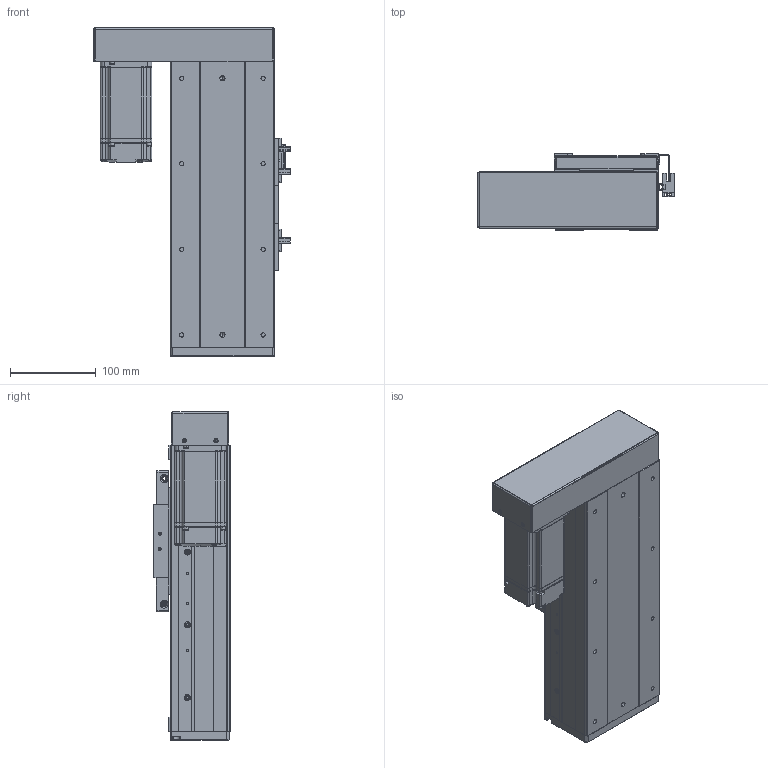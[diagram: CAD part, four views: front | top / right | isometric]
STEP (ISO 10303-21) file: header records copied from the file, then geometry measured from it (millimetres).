
FILE_DESCRIPTION (( 'STEP AP203' ), '1' );
FILE_NAME ('RY120F-L1620-300-LK.SLDASM_100.step', '2021-03-02T08:03:40', ( '盈信电脑' ), ( '东莞市道滘镇水果街19号' ), 'SwSTEP 2.0', 'SolidWorks 2012', '' );
FILE_SCHEMA (( 'CONFIG_CONTROL_DESIGN' ));
Length unit declared in the file: millimetre
Products named in the file (18): RY120F-L1620-300-LK.SLDASM_100; RY120F酘衵殏萇儂啣(200W PCD70 M4); 15; RY120F酘衵殏萇儂欶(200W); RY80俋离覜茼え; FY120F詩湍揤踡輸; 672嫖萇羲壽假蚾釱; 覜茼ん672; RY120F-詩湍幗謫粣; RY120F祥凄詩滅鳥裔; 滅袉蝶18-24; RY120F綴裔啣(臏璃ㄘ; RT120F-臏賑輸 16蹟譫; RY120F滅鳥詩湍-300-LK_100; RT120F-臏賑輸奻釱; RY120F转折电机端支撑座; RT120F-300-倰第菁釱-LK_100; RT120F-300-倰第裔啣-LK_100
Assembly tree (23 placements, depth 2):
  RY120F-L1620-300-LK.SLDASM_100
    RT120F-300-倰第菁釱-LK_100
    RT120F-300-倰第裔啣-LK_100  x2
    RY120F滅鳥詩湍-300-LK_100
    RT120F-臏賑輸 16蹟譫
    RT120F-臏賑輸奻釱
    RY120F转折电机端支撑座
    RY120F祥凄詩滅鳥裔
    滅袉蝶18-24  x2
    RY120F綴裔啣(臏璃ㄘ
    RY120F-詩湍幗謫粣
    覜茼ん672  x3
    672嫖萇羲壽假蚾釱  x2
    RY80俋离覜茼え
    FY120F詩湍揤踡輸  x2
    15
    RY120F酘衵殏萇儂啣(200W PCD70 M4)
    RY120F酘衵殏萇儂欶(200W)
Bounding box: 229.9 x 89 x 384 mm (x, y, z)
Volume: 1998956.6 mm3; surface area: 694222.1 mm2
Topology: 23 solids, 23 shells, 1987 faces, 5329 edges, 3411 vertices
Faces by surface type: plane 896, cylinder 864, cone 201, bspline 26
Entity records: 55543 total; most frequent: CARTESIAN_POINT 10294, DIRECTION 9333, ORIENTED_EDGE 8754, EDGE_CURVE 4377, AXIS2_PLACEMENT_3D 3350, VERTEX_POINT 2855, VECTOR 2633, LINE 2633
